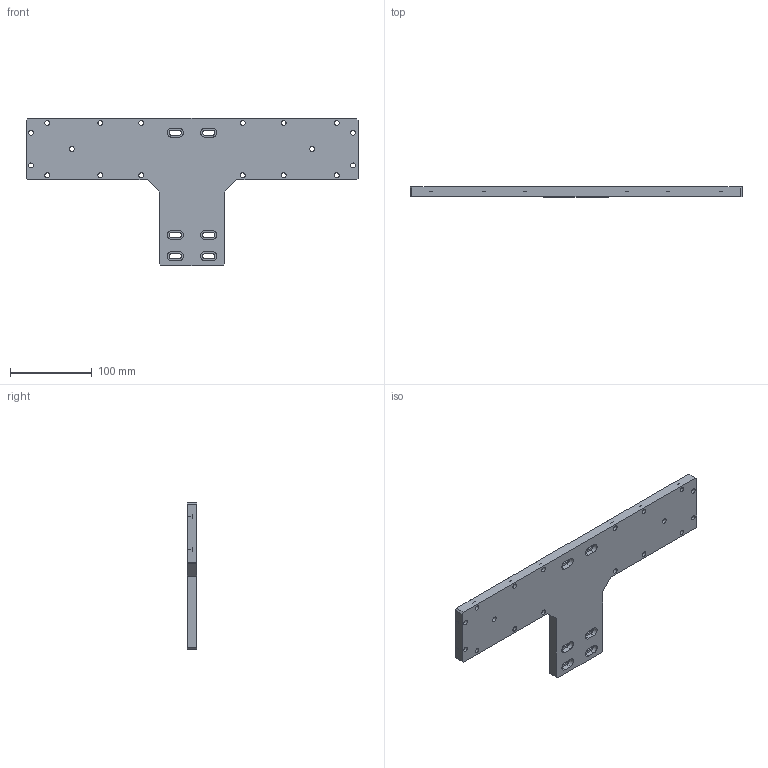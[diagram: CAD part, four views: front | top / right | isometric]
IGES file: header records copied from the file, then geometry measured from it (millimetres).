
Start section:  PTC IGES file: k80-k80l-st.igs
Global section: file name: k80-k80l-st.igs; native system: Pro/ENGINEER by Parametric Technology Corporation; preprocessor: 2008230; author: Owner; organization: Unknown; date: 20121211.153906; units: millimetre
Bounding box: 406 x 12 x 180 mm (x, y, z)
Surface area: 98876.2 mm2 (no closed solid volume)
Topology: 0 solids, 0 shells, 162 faces, 864 edges, 857 vertices
Faces by surface type: revolution 96, bspline 66
